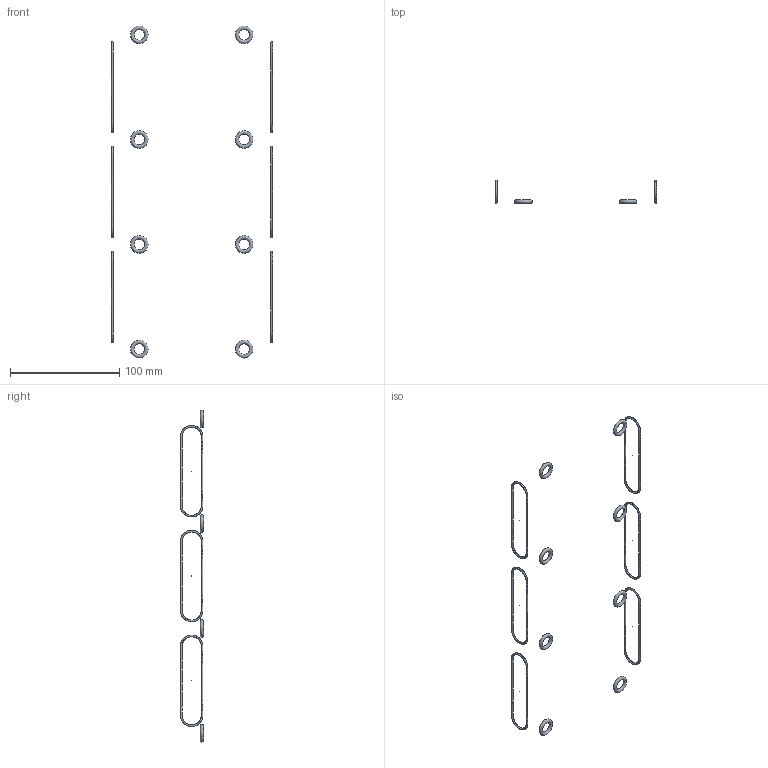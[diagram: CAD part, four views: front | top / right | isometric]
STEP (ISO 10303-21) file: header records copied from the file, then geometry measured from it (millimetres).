
FILE_DESCRIPTION (( 'STEP AP214' ), '1' );
FILE_NAME ('RL96A-2715.step', '2025-08-11T11:16:07', ( '' ), ( '' ), 'SwSTEP 2.0', 'SolidWorks 2025', '' );
FILE_SCHEMA (( 'AUTOMOTIVE_DESIGN' ));
Length unit declared in the file: millimetre
Products named in the file (4): 9452K121-Truck-O-Ring; 9750K730_PLASTIC ROUND PLUG_9750K73; 9452K183-Base-O-Ring; RL96A-2715
Assembly tree (14 placements, depth 2):
  9750K730_PLASTIC ROUND PLUG_9750K73
  RL96A-2715
    9452K183-Base-O-Ring  x8
    9452K121-Truck-O-Ring  x6
Bounding box: 147.52 x 21.19 x 304.18 mm (x, y, z)
Volume: 4648 mm3; surface area: 8612.9 mm2
Topology: 20 solids, 20 shells, 32 faces, 46 edges, 26 vertices
Faces by surface type: plane 12, torus 8, cylinder 6, bspline 6
Full cylindrical faces by diameter (mm): 0.127 x6
Entity records: 1793 total; most frequent: CARTESIAN_POINT 1523, DIRECTION 46, AXIS2_PLACEMENT_3D 23, PRODUCT_DEFINITION_SHAPE 18, ITEM_DEFINED_TRANSFORMATION 14, CONTEXT_DEPENDENT_SHAPE_REPRESENTATION 14, NEXT_ASSEMBLY_USAGE_OCCURRENCE 14, APPLICATION_PROTOCOL_DEFINITION 8
